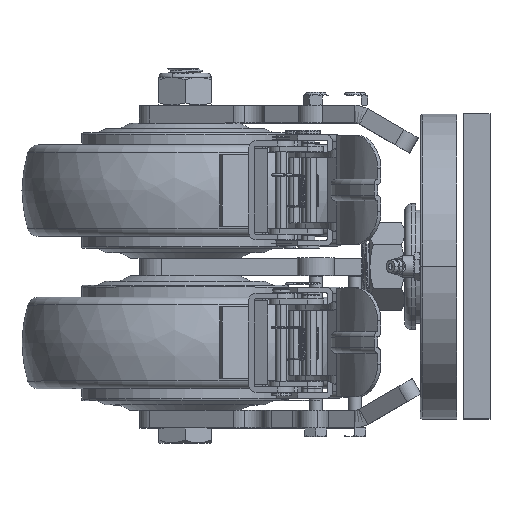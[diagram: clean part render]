
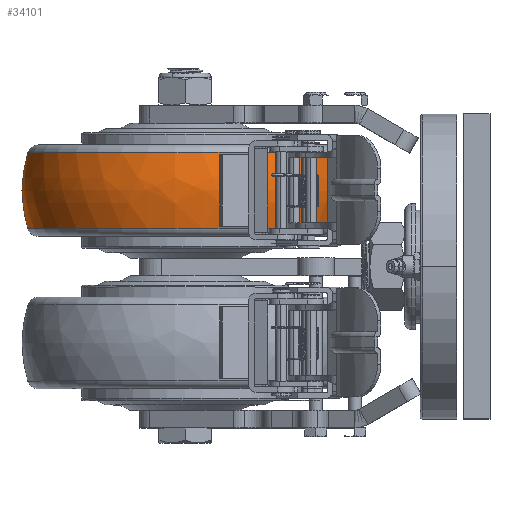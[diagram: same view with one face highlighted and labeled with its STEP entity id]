
A CAD part, top view. The second image highlights one B-rep face of the part: STEP entity #34101.
In plain terms, the highlighted free-form (B-spline) face has degree [3, 3] with [7, 4] control points.
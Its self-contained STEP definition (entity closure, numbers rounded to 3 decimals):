
#33776=CARTESIAN_POINT('',(-140.,52.455,-55.));
#33777=DIRECTION('',(0.,1.,0.));
#33778=DIRECTION('',(-0.998,0.,-0.064));
#33779=AXIS2_PLACEMENT_3D('',#33776,#33777,#33778);
#33781=CARTESIAN_POINT('',(-154.969,35.,-55.967));
#33782=DIRECTION('',(-0.064,0.,0.998));
#33783=DIRECTION('',(-0.955,0.291,-0.062));
#33784=AXIS2_PLACEMENT_3D('',#33781,#33782,#33783);
#33786=CARTESIAN_POINT('',(-125.031,35.,-54.033));
#33787=DIRECTION('',(0.064,0.,-0.998));
#33788=DIRECTION('',(0.955,0.291,0.062));
#33789=AXIS2_PLACEMENT_3D('',#33786,#33787,#33788);
#33811=CARTESIAN_POINT('',(-140.,17.545,-55.));
#33812=DIRECTION('',(0.,1.,0.));
#33813=DIRECTION('',(-0.998,0.,-0.064));
#33814=AXIS2_PLACEMENT_3D('',#33811,#33812,#33813);
#33880=CARTESIAN_POINT('',(-212.254,52.455,
-59.669));
#33881=VERTEX_POINT('',#33880);
#33882=CARTESIAN_POINT('',(-212.254,17.545,
-59.669));
#33883=VERTEX_POINT('',#33882);
#33900=CARTESIAN_POINT('',(-67.746,52.455,
-50.331));
#33901=VERTEX_POINT('',#33900);
#33902=CARTESIAN_POINT('',(-67.746,17.545,
-50.331));
#33903=VERTEX_POINT('',#33902);
#34063=CARTESIAN_POINT('',(-211.61,16.869,
-64.17));
#34064=CARTESIAN_POINT('',(-215.35,28.762,
-64.649));
#34065=CARTESIAN_POINT('',(-215.35,41.238,
-64.649));
#34066=CARTESIAN_POINT('',(-211.61,53.131,
-64.17));
#34067=CARTESIAN_POINT('',(-217.253,16.869,
-20.101));
#34068=CARTESIAN_POINT('',(-221.288,28.762,
-18.279));
#34069=CARTESIAN_POINT('',(-221.288,41.238,
-18.279));
#34070=CARTESIAN_POINT('',(-217.253,53.131,
-20.101));
#34071=CARTESIAN_POINT('',(-188.992,16.869,
14.18));
#34072=CARTESIAN_POINT('',(-191.55,28.762,
17.792));
#34073=CARTESIAN_POINT('',(-191.55,41.238,
17.792));
#34074=CARTESIAN_POINT('',(-188.992,53.131,
14.18));
#34075=CARTESIAN_POINT('',(-144.656,16.869,
17.045));
#34076=CARTESIAN_POINT('',(-144.899,28.762,
20.807));
#34077=CARTESIAN_POINT('',(-144.899,41.238,
20.807));
#34078=CARTESIAN_POINT('',(-144.656,53.131,
17.045));
#34079=CARTESIAN_POINT('',(-100.319,16.869,
19.91));
#34080=CARTESIAN_POINT('',(-98.247,28.762,
23.822));
#34081=CARTESIAN_POINT('',(-98.247,41.238,
23.822));
#34082=CARTESIAN_POINT('',(-100.319,53.131,
19.91));
#34083=CARTESIAN_POINT('',(-67.881,16.869,
-10.449));
#34084=CARTESIAN_POINT('',(-64.114,28.762,
-8.122));
#34085=CARTESIAN_POINT('',(-64.114,41.238,
-8.122));
#34086=CARTESIAN_POINT('',(-67.881,53.131,
-10.449));
#34087=CARTESIAN_POINT('',(-67.805,16.869,
-54.877));
#34088=CARTESIAN_POINT('',(-64.035,28.762,
-54.871));
#34089=CARTESIAN_POINT('',(-64.035,41.238,
-54.871));
#34090=CARTESIAN_POINT('',(-67.805,53.131,
-54.877));
#34091=(BOUNDED_SURFACE()B_SPLINE_SURFACE(3,3,((#34063,#34064,#34065,#34066),(
#34067,#34068,#34069,#34070),(#34071,#34072,#34073,#34074),(#34075,#34076,
#34077,#34078),(#34079,#34080,#34081,#34082),(#34083,#34084,#34085,#34086),(
#34087,#34088,#34089,#34090)),.UNSPECIFIED.,.F.,.F.,.F.)B_SPLINE_SURFACE_WITH_KNOTS((4,3,4),(4,4),(0.,1.,2.),(0.,1.),.UNSPECIFIED.)GEOMETRIC_REPRESENTATION_ITEM()RATIONAL_B_SPLINE_SURFACE(((1.216,1.178,
1.178,1.216),(0.96,0.93,
0.93,0.96),(0.96,0.93,
0.93,0.96),(1.216,1.178,
1.178,1.216),(0.96,0.93,
0.93,0.96),(0.96,0.93,
0.93,0.96),(1.216,1.178,
1.178,1.216)))REPRESENTATION_ITEM('')SURFACE());
#34093=ORIENTED_EDGE('',*,*,#34092,.F.);
#34094=ORIENTED_EDGE('',*,*,#34051,.T.);
#34096=ORIENTED_EDGE('',*,*,#34095,.T.);
#34098=ORIENTED_EDGE('',*,*,#34097,.F.);
#34099=EDGE_LOOP('',(#34093,#34094,#34096,#34098));
#34100=FACE_OUTER_BOUND('',#34099,.F.);
#33780=CIRCLE('',#33779,72.405);
#33785=CIRCLE('',#33784,60.);
#33790=CIRCLE('',#33789,60.);
#33815=CIRCLE('',#33814,72.405);
#34051=EDGE_CURVE('',#33881,#33901,#33780,.T.);
#34092=EDGE_CURVE('',#33881,#33883,#33785,.T.);
#34095=EDGE_CURVE('',#33901,#33903,#33790,.T.);
#34097=EDGE_CURVE('',#33883,#33903,#33815,.T.);
#34101=ADVANCED_FACE('',(#34100),#34091,.T.);
